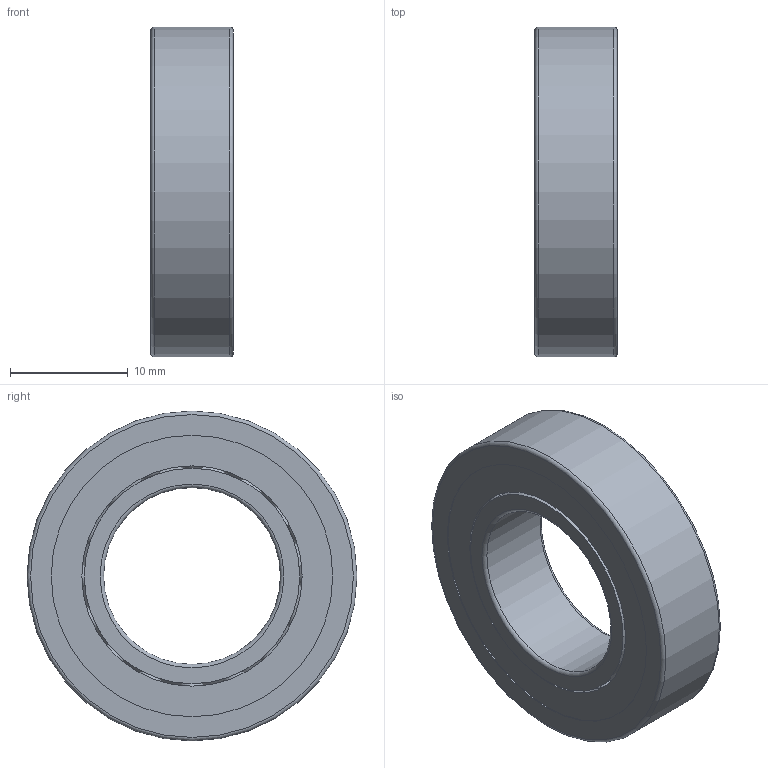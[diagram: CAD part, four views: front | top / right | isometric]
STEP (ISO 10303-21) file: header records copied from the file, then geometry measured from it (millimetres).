
FILE_DESCRIPTION(/* description */ (''),/* implementation_level */ '2;1');
FILE_NAME(/* name */ 'KH_61902_TA.step',/* time_stamp */ '2013-03-07T07:04:38+01:00',/* author */ ('Marian'),/* organization */ ('GMN'),/* preprocessor_version */ 'ST-DEVELOPER v11',/* originating_system */ 'SIEMENS UGS NX 6.0',/* authorisation */ '');
FILE_SCHEMA (('CONFIG_CONTROL_DESIGN'));
Length unit declared in the file: millimetre
Products named in the file (1): KH_61902_TA
Bounding box: 7 x 28 x 28 mm (x, y, z)
Volume: 2472.5 mm3; surface area: 4229.9 mm2
Topology: 21 solids, 21 shells, 64 faces, 152 edges, 98 vertices
Faces by surface type: cylinder 29, sphere 16, plane 12, torus 6, cone 1
Full cylindrical faces by diameter (mm): 2.978 x16, 15 x1, 18.3 x1, 18.7 x2, 19.1 x1, 20.278 x1, 21.856 x1, 22.256 x1, 23.9 x2, 24.5 x2, 28 x1
Entity records: 3206 total; most frequent: CARTESIAN_POINT 2033, DIRECTION 194, FACE_BOUND 144, EDGE_LOOP 128, ORIENTED_EDGE 128, AXIS2_PLACEMENT_3D 97, VERTEX_POINT 80, ADVANCED_FACE 64
